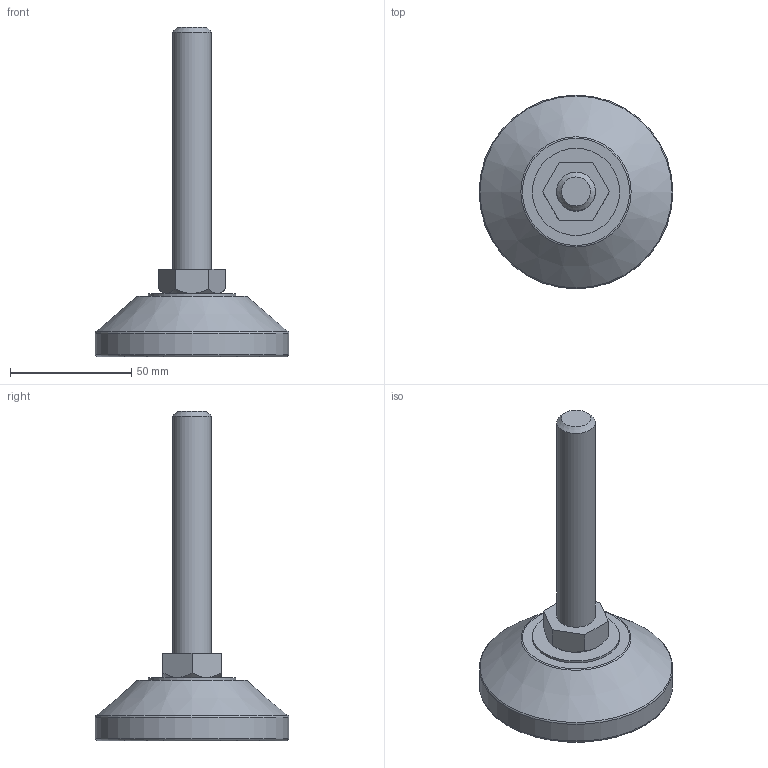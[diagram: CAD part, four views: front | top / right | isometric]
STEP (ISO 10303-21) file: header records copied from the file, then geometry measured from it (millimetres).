
FILE_DESCRIPTION(/* description */ (''),/* implementation_level */ '2;1');
FILE_NAME(/* name */ 'D:\조절자\F\F-M16-100L.stp',/* time_stamp */ '2016-03-14T14:32:21+09:00',/* author */ ('GS-DT-1-001'),/* organization */ (''),/* preprocessor_version */ 'ST-DEVELOPER v15.6',/* originating_system */ 'Autodesk Inventor LT ',/* authorisation */ '');
FILE_SCHEMA (('AUTOMOTIVE_DESIGN { 1 0 10303 214 3 1 1 }'));
Length unit declared in the file: millimetre
Products named in the file (1): F-M16-100L
Bounding box: 80 x 80 x 136 mm (x, y, z)
Volume: 92959.5 mm3; surface area: 23467.8 mm2
Topology: 1 solids, 2 shells, 46 faces, 81 edges, 50 vertices
Faces by surface type: plane 21, cylinder 13, cone 8, torus 4
Full cylindrical faces by diameter (mm): 6.912 x1, 8 x1, 8.2 x1, 8.3 x1, 16 x2, 36 x1, 50 x1, 57 x1, 61 x1, 71 x1, 75 x1, 80 x1
Entity records: 988 total; most frequent: DIRECTION 180, CARTESIAN_POINT 163, ORIENTED_EDGE 110, AXIS2_PLACEMENT_3D 84, EDGE_LOOP 82, EDGE_CURVE 55, VERTEX_POINT 49, FACE_OUTER_BOUND 46
